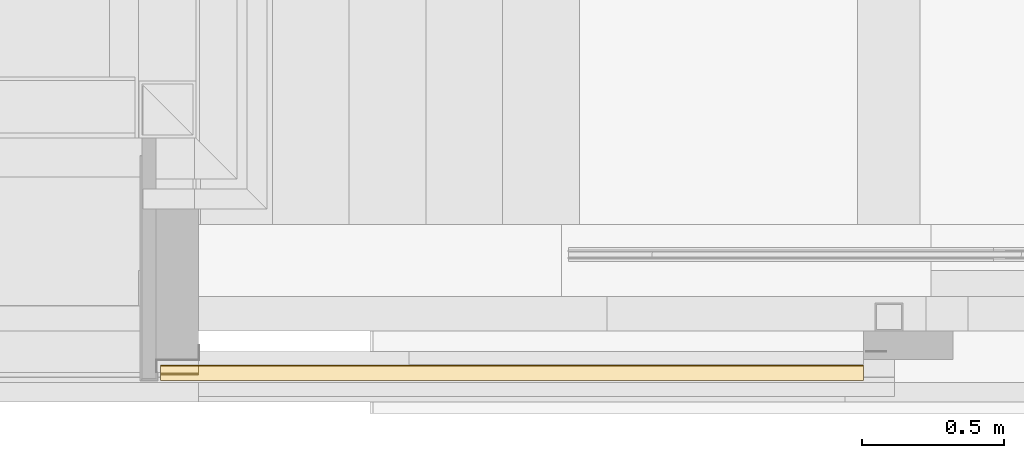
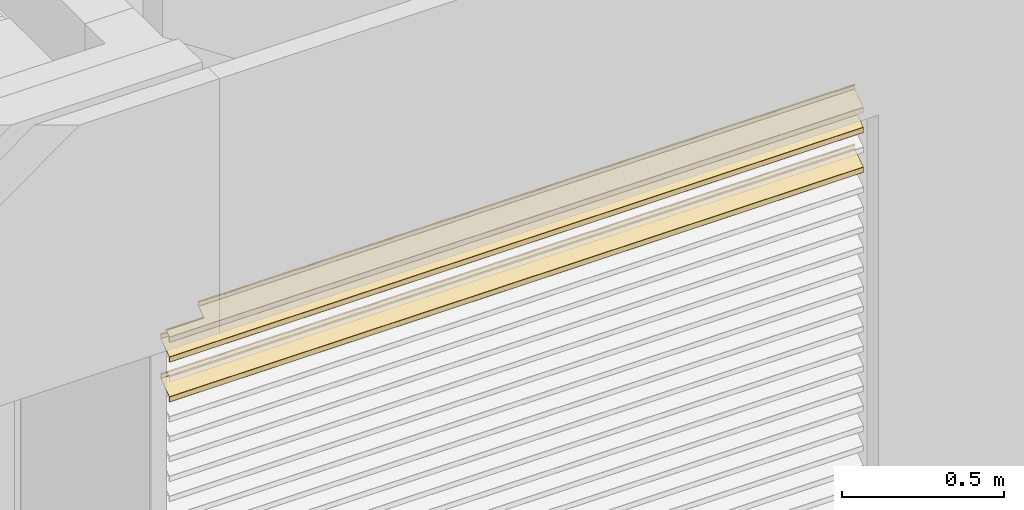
# One storey, part 112 of 165: 3 coverings, 1 element without a shape of its own.
"""IFC2X3 building model written with IfcOpenShell, lengths in millimetres."""

import ifcopenshell
import ifcopenshell.guid

model = None  # the IFC model being written
_history = None  # IfcOwnerHistory: only IFC2X3 demands one
_inside = {}  # id of a spatial element -> (the spatial element, [elements in it])
_under = {}  # id of a project, library or spatial element -> (it, [spatial elements below it])
_declared = {}  # id of a project -> (the project, [libraries it declares])
_typed = {}  # id of a type object -> (the type object, [elements of that type])
_made_of = {}  # id of a material, layer set ... -> (it, [elements and type objects made of it])


def new_model(schema):
    """Start an empty IFC model of exactly this schema.

    Asked for "IFC4X3", IfcOpenShell would pick the latest addendum, in which some entities
    have other attributes; the version numbers below select the first issue.
    IFC2X3 requires an IfcOwnerHistory on every rooted entity: one is made here for all.
    """
    global model, _history
    if schema == "IFC4X3":
        model = ifcopenshell.file(schema_version=(4, 3, 0, 0))
    else:
        model = ifcopenshell.file(schema=schema)
    _inside.clear()
    _under.clear()
    _declared.clear()
    _typed.clear()
    _made_of.clear()
    _history = None
    if model.schema == "IFC2X3":
        org = make("IfcOrganization", Name="unknown")
        user = make(
            "IfcPersonAndOrganization",
            ThePerson=make("IfcPerson", FamilyName="unknown"),
            TheOrganization=org,
        )
        app = make(
            "IfcApplication",
            ApplicationDeveloper=org,
            Version="unknown",
            ApplicationFullName="unknown",
            ApplicationIdentifier="unknown",
        )
        _history = make(
            "IfcOwnerHistory",
            OwningUser=user,
            OwningApplication=app,
            ChangeAction="ADDED",
            CreationDate=0,
        )
    return model


def make(cls, **values):
    """One entity of the class cls with the attributes given. An attribute that is None is left unset."""
    return model.create_entity(
        cls, **{name: value for name, value in values.items() if value is not None}
    )


def entity(cls, *values):
    """Any entity or typed value of the class cls, its attributes in the order of the schema. None: left unset."""
    e = model.create_entity(cls)
    for i, value in enumerate(values):
        if value is not None:
            e[i] = value
    return e


def rooted(cls, **values):
    """An entity with a GlobalId (a new one), such as an element, a storey or a relation."""
    return make(cls, GlobalId=ifcopenshell.guid.new(), OwnerHistory=_history, **values)


def si_unit(unit_type, name, prefix=None):
    """IfcSIUnit, for example si_unit("LENGTHUNIT", "METRE", prefix="MILLI")."""
    return make("IfcSIUnit", UnitType=unit_type, Prefix=prefix, Name=name)


def converted_unit(unit_type, name, factor, base, dimensions=None, offset=None):
    """IfcConversionBasedUnit, such as the inch: factor (a typed value) times the base unit."""
    return make(
        "IfcConversionBasedUnit"
        if offset is None
        else "IfcConversionBasedUnitWithOffset",
        ConversionOffset=offset,
        Dimensions=None
        if dimensions is None
        else entity("IfcDimensionalExponents", *dimensions),
        UnitType=unit_type,
        Name=name,
        ConversionFactor=make(
            "IfcMeasureWithUnit", ValueComponent=factor, UnitComponent=base
        ),
    )


def derived_unit(unit_type, elements):
    """IfcDerivedUnit: a product of units, each with its exponent."""
    return make(
        "IfcDerivedUnit",
        Elements=[
            make("IfcDerivedUnitElement", Unit=unit, Exponent=power)
            for unit, power in elements
        ],
        UnitType=unit_type,
    )


def money_unit(currency):
    """IfcMonetaryUnit."""
    return make("IfcMonetaryUnit", Currency=currency)


def assignment(units):
    """IfcUnitAssignment: the units of a project."""
    return None if units is None else make("IfcUnitAssignment", Units=units)


def point(xyz):
    """IfcCartesianPoint."""
    return None if xyz is None else make("IfcCartesianPoint", Coordinates=xyz)


def direction(xyz):
    """IfcDirection."""
    return None if xyz is None else make("IfcDirection", DirectionRatios=xyz)


def frame(location, z_axis=None, x_axis=None):
    """IfcAxis2Placement3D, a coordinate frame: its origin and axes. An axis left out is left unset."""
    return make(
        "IfcAxis2Placement3D",
        Location=point(location),
        Axis=direction(z_axis),
        RefDirection=direction(x_axis),
    )


def origin_with_axes():
    """The frame at (0, 0, 0) with the z axis (0, 0, 1) and the x axis (1, 0, 0) written out."""
    return frame((0.0, 0.0, 0.0), z_axis=(0.0, 0.0, 1.0), x_axis=(1.0, 0.0, 0.0))


def place(relative_to, where):
    """IfcLocalPlacement: puts the frame where relative to a parent placement (None: the world)."""
    return make(
        "IfcLocalPlacement", PlacementRelTo=relative_to, RelativePlacement=where
    )


def context(
    kind, dimensions, precision=None, world=None, true_north=None, identifier=None
):
    """IfcGeometricRepresentationContext, for example the 3D "Model" context."""
    return make(
        "IfcGeometricRepresentationContext",
        ContextIdentifier=identifier,
        ContextType=kind,
        CoordinateSpaceDimension=dimensions,
        Precision=precision,
        WorldCoordinateSystem=world,
        TrueNorth=true_north,
    )


def subcontext(parent, identifier, kind, view, scale=None):
    """IfcGeometricRepresentationSubContext, for example "Body" below "Model"."""
    return make(
        "IfcGeometricRepresentationSubContext",
        ContextIdentifier=identifier,
        ContextType=kind,
        ParentContext=parent,
        TargetScale=scale,
        TargetView=view,
    )


def project(units=None, contexts=None):
    """IfcProject with its units and contexts."""
    return rooted(
        "IfcProject",
        Name="project",
        RepresentationContexts=contexts,
        UnitsInContext=assignment(units),
    )


def spatial(cls, under=None, at=None, **own):
    """A site, building, storey or space (cls), placed at a placement, below another one or the project."""
    s = rooted(cls, ObjectPlacement=at, **own)
    if under is not None:
        _under.setdefault(under.id(), (under, []))[1].append(s)
    return s


def faces_of(points, faces, orient=None, outer=None):
    """IfcFace entities. A face is a list of loops; a loop is a list of indices into points, from 0.

    orient and outer hold one flag for each loop. By default every Orientation is true, the
    first loop of a face is its IfcFaceOuterBound and the others are IfcFaceBound.
    """
    made = []
    for i, loops in enumerate(faces):
        bounds = []
        for j, loop in enumerate(loops):
            is_outer = j == 0 if outer is None else outer[i][j]
            bounds.append(
                make(
                    "IfcFaceOuterBound" if is_outer else "IfcFaceBound",
                    Bound=make("IfcPolyLoop", Polygon=[points[k] for k in loop]),
                    Orientation=True if orient is None else orient[i][j],
                )
            )
        made.append(make("IfcFace", Bounds=bounds))
    return made


def faceted_brep(points, faces, orient=None, outer=None, voids=None):
    """IfcFacetedBrep: a solid bounded by flat faces; with voids (closed shells), ...WithVoids."""
    shared = [point(p) for p in points]
    hull = make("IfcClosedShell", CfsFaces=faces_of(shared, faces, orient, outer))
    if voids is None:
        return make("IfcFacetedBrep", Outer=hull)
    return make(
        "IfcFacetedBrepWithVoids",
        Outer=hull,
        Voids=[
            make(cls, CfsFaces=faces_of(shared, fs, o, b)) for cls, fs, o, b in voids
        ],
    )


def shape(context_of_items, identifier, shape_type, items):
    """IfcShapeRepresentation: the items that make up one representation, for example the "Body"."""
    return make(
        "IfcShapeRepresentation",
        ContextOfItems=context_of_items,
        RepresentationIdentifier=identifier,
        RepresentationType=shape_type,
        Items=items,
    )


def material(Name=None, Category=None):
    """IfcMaterial."""
    return make("IfcMaterial", Name=Name, Category=Category)


def made_of(thing, what):
    """Note that an element or type object is made of a material, layer set ...; save() writes the relation."""
    if what is not None:
        _made_of.setdefault(what.id(), (what, []))[1].append(thing)
    return thing


def type_object(cls, material=None, **own):
    """A type object (cls), such as IfcWallType, which elements share."""
    return made_of(rooted(cls, **own), material)


def element(
    cls,
    number,
    at=None,
    inside=None,
    cuts=None,
    type_object=None,
    material=None,
    context=None,
    identifier="Body",
    shape_type=None,
    held_by="IfcProductDefinitionShape",
    body=None,
    shapes=None,
    **own,
):
    """One element of the class cls, such as IfcWall. Its Tag is "e" and its number.

    at: its placement. inside: the storey or other place that contains it. cuts: it is an
    opening in that element (IfcRelVoidsElement). A single representation is given by context,
    identifier, shape_type and body (its items); several are given by shapes. held_by: the class
    of the entity that holds the representations. save() writes the other relations.
    """
    e = rooted(cls, Tag="e%d" % number, ObjectPlacement=at, **own)
    if body is not None:
        shapes = [shape(context, identifier, shape_type, body)]
    if shapes is not None:
        e.Representation = make(held_by, Representations=shapes)
    if inside is not None:
        _inside.setdefault(inside.id(), (inside, []))[1].append(e)
    if cuts is not None:
        rooted(
            "IfcRelVoidsElement", RelatingBuildingElement=cuts, RelatedOpeningElement=e
        )
    if type_object is not None:
        _typed.setdefault(type_object.id(), (type_object, []))[1].append(e)
    return made_of(e, material)


def aggregate(whole, parts):
    """IfcRelAggregates: a whole, such as a stair, and the parts it consists of."""
    return rooted("IfcRelAggregates", RelatingObject=whole, RelatedObjects=parts)


def save(model, path):
    """Write the relations noted so far, then the file.

    IfcRelAggregates (storeys below a building ...), IfcRelContainedInSpatialStructure (elements
    in a storey), IfcRelDefinesByType, IfcRelAssociatesMaterial and IfcRelDeclares: one each for
    every whole, place, type object, material and project.
    """
    for whole, parts in _under.values():
        aggregate(whole, parts)
    for where, things in _inside.values():
        rooted(
            "IfcRelContainedInSpatialStructure",
            RelatedElements=things,
            RelatingStructure=where,
        )
    for kind, things in _typed.values():
        rooted("IfcRelDefinesByType", RelatedObjects=things, RelatingType=kind)
    for what, things in _made_of.values():
        rooted("IfcRelAssociatesMaterial", RelatedObjects=things, RelatingMaterial=what)
    for by, libraries in _declared.values():
        rooted("IfcRelDeclares", RelatingContext=by, RelatedDefinitions=libraries)
    model.write(path)


model = new_model("IFC2X3")

# Units and contexts
model_context = context("Model", 3, precision=0.01, world=origin_with_axes(), true_north=direction((0.0, 1.0)))
body_context = subcontext(model_context, "Body", "Model", "MODEL_VIEW")
ifc_project = project(units=[si_unit("LENGTHUNIT", "METRE", prefix="MILLI"), si_unit("AREAUNIT", "SQUARE_METRE"), si_unit("VOLUMEUNIT", "CUBIC_METRE"), converted_unit("PLANEANGLEUNIT", "DEGREE", entity("IfcPlaneAngleMeasure", 0.0174532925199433), si_unit("PLANEANGLEUNIT", "RADIAN"), dimensions=[0, 0, 0, 0, 0, 0, 0]), money_unit("EUR"), converted_unit("TIMEUNIT", "Year", entity("IfcTimeMeasure", 31556926.0), si_unit("TIMEUNIT", "SECOND"), dimensions=[0, 0, 1, 0, 0, 0, 0]), si_unit("MASSUNIT", "GRAM", prefix="KILO"), si_unit("THERMODYNAMICTEMPERATUREUNIT", "DEGREE_CELSIUS"), si_unit("LUMINOUSINTENSITYUNIT", "LUMEN"), si_unit("ENERGYUNIT", "JOULE", prefix="MEGA"), derived_unit("THERMALCONDUCTANCEUNIT", [(si_unit("POWERUNIT", "WATT"), 1), (si_unit("LENGTHUNIT", "METRE"), -1), (si_unit("THERMODYNAMICTEMPERATUREUNIT", "KELVIN"), -1)]), derived_unit("SPECIFICHEATCAPACITYUNIT", [(si_unit("ENERGYUNIT", "JOULE"), 1), (si_unit("MASSUNIT", "GRAM", prefix="KILO"), -1), (si_unit("THERMODYNAMICTEMPERATUREUNIT", "KELVIN"), -1)]), derived_unit("MASSDENSITYUNIT", [(si_unit("MASSUNIT", "GRAM", prefix="KILO"), 1), (si_unit("VOLUMEUNIT", "CUBIC_METRE"), -1)])], contexts=[model_context])

# Site, building, storey
site_placement = place(None, origin_with_axes())
site = spatial("IfcSite", under=ifc_project, at=site_placement, Name="Site", CompositionType="ELEMENT")
building_placement = place(site_placement, origin_with_axes())
building = spatial("IfcBuilding", under=site, at=building_placement, Name="Naam gebouw", CompositionType="ELEMENT")
storey_placement = place(building_placement, origin_with_axes())
storey = spatial("IfcBuildingStorey", under=building, at=storey_placement, Name="Begane grond", CompositionType="ELEMENT", Elevation=0.0)

# Beam, coverings
beam_type = type_object("IfcBeamType", Name="30 Duco Louvre deur 55 x 2627", PredefinedType="BEAM")
beam_placement = place(storey_placement, frame((13900.0, -116.9904125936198, 0.0), z_axis=(0.0, 0.0, 1.0), x_axis=(0.0, 1.0, 0.0)))
beam = element("IfcBeam", 1, at=beam_placement, inside=storey, type_object=beam_type, Name="_Regenwaterafvoer-x", ObjectType="BEAM")
ifc_material = material(Name="Metaal - Aluminium")
covering_1_placement = place(beam_placement, origin_with_axes())
covering_1 = element("IfcCovering", 2, at=covering_1_placement, material=ifc_material, Name="Metaal - Aluminium", PredefinedType="NOTDEFINED", context=body_context, shape_type="Brep", body=[
    faceted_brep([(-4.027927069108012, 2473.999999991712, 2408.699501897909), (-56.57357643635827, 2473.999999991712, 2371.906642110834), (-56.57357643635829, 0.0, 2371.906642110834), (-4.027927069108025, 0.0, 2408.699501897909), (-3.90000000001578, 2473.999999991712, 2408.945247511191), (-3.90000000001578, 2473.999999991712, 2424.126428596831), (-3.975892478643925, 2473.999999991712, 2424.325867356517), (-4.165172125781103, 2473.999999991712, 2424.424400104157), (-4.372072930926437, 2473.999999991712, 2424.37217421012), (-5.427927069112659, 2473.999999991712, 2423.632857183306), (-5.634827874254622, 2473.999999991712, 2423.580631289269), (-5.8241075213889, 2473.999999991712, 2423.679164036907), (-5.900000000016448, 2473.999999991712, 2423.878602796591), (-5.900000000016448, 2473.999999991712, 2425.465609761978), (-5.772072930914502, 2473.999999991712, 2425.711355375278), (-2.944145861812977, 2473.999999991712, 2427.691491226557), (-2.53034425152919, 2473.999999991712, 2427.795943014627), (-2.151784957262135, 2473.999999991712, 2427.59887751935), (-2.000000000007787, 2473.999999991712, 2427.199999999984), (-2.000000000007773, 2473.999999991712, 2408.320567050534), (-2.426423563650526, 2473.999999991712, 2407.501415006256), (-26.08018232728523, 2473.999999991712, 2390.938874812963), (-26.40000000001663, 2473.999999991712, 2390.324510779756), (-26.40000000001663, 2473.999999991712, 2387.12781745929), (-26.61966991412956, 2473.999999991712, 2386.597487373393), (-28.05857864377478, 2473.999999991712, 2385.158578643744), (-28.20000000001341, 2473.999999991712, 2385.09999999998), (-28.3414213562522, 2473.999999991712, 2385.158578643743), (-28.40000000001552, 2473.999999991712, 2385.299999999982), (-28.40000000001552, 2473.999999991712, 2387.873784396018), (-28.58973119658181, 2473.999999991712, 2388.372381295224), (-29.06293031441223, 2473.999999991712, 2388.61871316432), (-29.58018232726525, 2473.999999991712, 2388.488148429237), (-30.60000000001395, 2473.999999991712, 2387.774064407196), (-30.60000000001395, 2473.999999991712, 2382.599999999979), (-30.74644660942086, 2473.999999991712, 2382.246446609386), (-31.10000000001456, 2473.999999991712, 2382.099999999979), (-32.10000000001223, 2473.999999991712, 2382.099999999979), (-32.45355339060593, 2473.999999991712, 2382.246446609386), (-32.60000000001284, 2473.999999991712, 2382.599999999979), (-32.60000000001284, 2473.999999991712, 2384.932912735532), (-32.78973119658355, 2473.999999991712, 2385.431509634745), (-33.26293031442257, 2473.999999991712, 2385.677841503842), (-33.780182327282, 2473.999999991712, 2385.547276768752), (-54.97207293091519, 2473.999999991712, 2370.708555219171), (-55.10000000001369, 2473.999999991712, 2370.462809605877), (-55.10000000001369, 2473.999999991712, 2354.973571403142), (-55.02410752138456, 2473.999999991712, 2354.774132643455), (-54.83482787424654, 2473.999999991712, 2354.675599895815), (-54.62792706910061, 2473.999999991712, 2354.727825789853), (-53.57207293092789, 2473.999999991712, 2355.467142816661), (-53.36517212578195, 2473.999999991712, 2355.519368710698), (-53.1758924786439, 2473.999999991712, 2355.420835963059), (-53.1000000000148, 2473.999999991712, 2355.221397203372), (-53.1000000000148, 2473.999999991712, 2353.634390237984), (-53.22792706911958, 2473.999999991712, 2353.38864462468), (-56.0558541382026, 2473.999999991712, 2351.408508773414), (-56.46965574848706, 2473.999999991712, 2351.304056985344), (-56.8482150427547, 2473.999999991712, 2351.50112248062), (-57.00000000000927, 2473.999999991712, 2351.899999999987), (-57.00000000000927, 2473.999999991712, 2371.087490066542), (-57.00000000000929, 0.0, 2371.087490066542), (-57.00000000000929, 0.0, 2351.899999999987), (-56.84821504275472, 0.0, 2351.50112248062), (-56.46965574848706, 0.0, 2351.304056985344), (-56.05585413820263, 0.0, 2351.408508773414), (-53.22792706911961, 0.0, 2353.38864462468), (-53.10000000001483, 0.0, 2353.634390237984), (-53.10000000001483, 0.0, 2355.221397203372), (-53.17589247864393, 0.0, 2355.420835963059), (-53.36517212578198, 0.0, 2355.519368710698), (-53.57207293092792, 0.0, 2355.467142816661), (-54.62792706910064, 0.0, 2354.727825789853), (-54.83482787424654, 0.0, 2354.675599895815), (-55.02410752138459, 0.0, 2354.774132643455), (-55.10000000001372, 0.0, 2354.973571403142), (-55.10000000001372, 0.0, 2370.462809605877), (-54.97207293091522, 0.0, 2370.708555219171), (-33.78018232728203, 0.0, 2385.547276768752), (-33.2629303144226, 0.0, 2385.677841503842), (-32.78973119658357, 0.0, 2385.431509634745), (-32.60000000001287, 0.0, 2384.932912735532), (-32.60000000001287, 0.0, 2382.599999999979), (-32.45355339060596, 0.0, 2382.246446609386), (-32.10000000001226, 0.0, 2382.099999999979), (-31.10000000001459, 0.0, 2382.099999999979), (-30.74644660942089, 0.0, 2382.246446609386), (-30.60000000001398, 0.0, 2382.599999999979), (-30.60000000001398, 0.0, 2387.774064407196), (-29.58018232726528, 0.0, 2388.488148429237), (-29.06293031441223, 0.0, 2388.61871316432), (-28.58973119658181, 0.0, 2388.372381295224), (-28.40000000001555, 0.0, 2387.873784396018), (-28.40000000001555, 0.0, 2385.299999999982), (-28.34142135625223, 0.0, 2385.158578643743), (-28.20000000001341, 0.0, 2385.09999999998), (-28.05857864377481, 0.0, 2385.158578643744), (-26.61966991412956, 0.0, 2386.597487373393), (-26.40000000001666, 0.0, 2387.12781745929), (-26.40000000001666, 0.0, 2390.324510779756), (-26.08018232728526, 0.0, 2390.938874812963), (-2.42642356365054, 0.0, 2407.501415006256), (-2.000000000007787, 0.0, 2408.320567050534), (-2.000000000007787, 0.0, 2427.199999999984), (-2.151784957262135, 0.0, 2427.59887751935), (-2.53034425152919, 0.0, 2427.795943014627), (-2.944145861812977, 0.0, 2427.691491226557), (-5.772072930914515, 0.0, 2425.711355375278), (-5.900000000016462, 0.0, 2425.465609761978), (-5.900000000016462, 0.0, 2423.878602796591), (-5.8241075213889, 0.0, 2423.679164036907), (-5.634827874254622, 0.0, 2423.580631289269), (-5.427927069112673, 0.0, 2423.632857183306), (-4.372072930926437, 0.0, 2424.37217421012), (-4.165172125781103, 0.0, 2424.424400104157), (-3.975892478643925, 0.0, 2424.325867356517), (-3.900000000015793, 0.0, 2424.126428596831), (-3.900000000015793, 0.0, 2408.945247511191)], [[[0, 1, 2, 3]], [[0, 4, 5, 6, 7, 8, 9, 10, 11, 12, 13, 14, 15, 16, 17, 18, 19, 20, 21, 22, 23, 24, 25, 26, 27, 28, 29, 30, 31, 32, 33, 34, 35, 36, 37, 38, 39, 40, 41, 42, 43, 44, 45, 46, 47, 48, 49, 50, 51, 52, 53, 54, 55, 56, 57, 58, 59, 60, 1]], [[1, 60, 61, 2]], [[3, 2, 61, 62, 63, 64, 65, 66, 67, 68, 69, 70, 71, 72, 73, 74, 75, 76, 77, 78, 79, 80, 81, 82, 83, 84, 85, 86, 87, 88, 89, 90, 91, 92, 93, 94, 95, 96, 97, 98, 99, 100, 101, 102, 103, 104, 105, 106, 107, 108, 109, 110, 111, 112, 113, 114, 115, 116, 117]], [[4, 0, 3, 117]], [[5, 4, 117, 116]], [[6, 5, 116, 115]], [[7, 6, 115, 114]], [[8, 7, 114, 113]], [[9, 8, 113, 112]], [[10, 9, 112, 111]], [[11, 10, 111, 110]], [[12, 11, 110, 109]], [[13, 12, 109, 108]], [[14, 13, 108, 107]], [[15, 14, 107, 106]], [[16, 15, 106, 105]], [[17, 16, 105, 104]], [[18, 17, 104, 103]], [[19, 18, 103, 102]], [[20, 19, 102, 101]], [[21, 20, 101, 100]], [[22, 21, 100, 99]], [[23, 22, 99, 98]], [[24, 23, 98, 97]], [[25, 24, 97, 96]], [[26, 25, 96, 95]], [[27, 26, 95, 94]], [[28, 27, 94, 93]], [[29, 28, 93, 92]], [[30, 29, 92, 91]], [[31, 30, 91, 90]], [[32, 31, 90, 89]], [[33, 32, 89, 88]], [[34, 33, 88, 87]], [[35, 34, 87, 86]], [[36, 35, 86, 85]], [[37, 36, 85, 84]], [[38, 37, 84, 83]], [[39, 38, 83, 82]], [[40, 39, 82, 81]], [[41, 40, 81, 80]], [[42, 41, 80, 79]], [[43, 42, 79, 78]], [[44, 43, 78, 77]], [[45, 44, 77, 76]], [[46, 45, 76, 75]], [[47, 46, 75, 74]], [[48, 47, 74, 73]], [[49, 48, 73, 72]], [[50, 49, 72, 71]], [[51, 50, 71, 70]], [[52, 51, 70, 69]], [[53, 52, 69, 68]], [[54, 53, 68, 67]], [[55, 54, 67, 66]], [[56, 55, 66, 65]], [[57, 56, 65, 64]], [[58, 57, 64, 63]], [[59, 58, 63, 62]], [[60, 59, 62, 61]]]),
])
covering_2_placement = place(beam_placement, origin_with_axes())
covering_2 = element("IfcCovering", 3, at=covering_2_placement, material=ifc_material, Name="Metaal - Aluminium", PredefinedType="NOTDEFINED", context=body_context, shape_type="Brep", body=[
    faceted_brep([(-4.027927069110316, 2473.999999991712, 2558.699501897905), (-56.57357643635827, 2473.999999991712, 2521.906642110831), (-56.57357643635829, 0.0, 2521.906642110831), (-4.027927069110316, 0.0, 2558.699501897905), (-3.90000000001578, 2473.999999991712, 2558.945247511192), (-3.90000000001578, 2473.999999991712, 2574.126428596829), (-3.975892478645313, 2473.999999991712, 2574.325867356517), (-4.165172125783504, 2473.999999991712, 2574.424400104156), (-4.372072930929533, 2473.999999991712, 2574.372174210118), (-5.42792706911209, 2473.999999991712, 2573.632857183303), (-5.634827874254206, 2473.999999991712, 2573.580631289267), (-5.824107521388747, 2473.999999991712, 2573.679164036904), (-5.900000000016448, 2473.999999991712, 2573.878602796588), (-5.900000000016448, 2473.999999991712, 2575.465609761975), (-5.772072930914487, 2473.999999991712, 2575.711355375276), (-2.944145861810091, 2473.999999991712, 2577.691491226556), (-2.530344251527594, 2473.999999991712, 2577.795943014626), (-2.151784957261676, 2473.999999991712, 2577.59887751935), (-2.000000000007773, 2473.999999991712, 2577.199999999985), (-2.000000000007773, 2473.999999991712, 2558.320567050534), (-2.426423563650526, 2473.999999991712, 2557.501415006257), (-26.08018232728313, 2473.999999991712, 2540.938874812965), (-26.40000000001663, 2473.999999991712, 2540.324510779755), (-26.40000000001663, 2473.999999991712, 2537.127817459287), (-26.61966991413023, 2473.999999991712, 2536.597487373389), (-28.05857864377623, 2473.999999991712, 2535.158578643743), (-28.20000000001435, 2473.999999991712, 2535.09999999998), (-28.34142135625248, 2473.999999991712, 2535.158578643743), (-28.40000000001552, 2473.999999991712, 2535.299999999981), (-28.40000000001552, 2473.999999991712, 2537.873784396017), (-28.58973119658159, 2473.999999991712, 2538.372381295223), (-29.06293031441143, 2473.999999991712, 2538.618713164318), (-29.58018232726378, 2473.999999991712, 2538.488148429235), (-30.60000000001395, 2473.999999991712, 2537.774064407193), (-30.60000000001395, 2473.999999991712, 2532.599999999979), (-30.74644660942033, 2473.999999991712, 2532.246446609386), (-31.10000000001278, 2473.999999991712, 2532.09999999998), (-32.10000000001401, 2473.999999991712, 2532.09999999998), (-32.45355339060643, 2473.999999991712, 2532.246446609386), (-32.60000000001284, 2473.999999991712, 2532.599999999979), (-32.60000000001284, 2473.999999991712, 2534.932912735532), (-32.78973119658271, 2473.999999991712, 2535.431509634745), (-33.26293031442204, 2473.999999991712, 2535.677841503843), (-33.780182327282, 2473.999999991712, 2535.547276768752), (-54.97207293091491, 2473.999999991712, 2520.708555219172), (-55.10000000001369, 2473.999999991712, 2520.462809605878), (-55.10000000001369, 2473.999999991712, 2504.973571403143), (-55.02410752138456, 2473.999999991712, 2504.774132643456), (-54.83482787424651, 2473.999999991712, 2504.675599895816), (-54.62792706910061, 2473.999999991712, 2504.727825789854), (-53.57207293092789, 2473.999999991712, 2505.467142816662), (-53.36517212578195, 2473.999999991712, 2505.519368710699), (-53.1758924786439, 2473.999999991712, 2505.42083596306), (-53.1000000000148, 2473.999999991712, 2505.221397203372), (-53.1000000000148, 2473.999999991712, 2503.634390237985), (-53.22792706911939, 2473.999999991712, 2503.388644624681), (-56.05585413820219, 2473.999999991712, 2501.408508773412), (-56.46965574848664, 2473.999999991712, 2501.304056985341), (-56.84821504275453, 2473.999999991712, 2501.501122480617), (-57.00000000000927, 2473.999999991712, 2501.899999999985), (-57.00000000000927, 2473.999999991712, 2521.087490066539), (-57.00000000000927, 0.0, 2521.087490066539), (-57.00000000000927, 0.0, 2501.899999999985), (-56.84821504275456, 0.0, 2501.501122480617), (-56.46965574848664, 0.0, 2501.304056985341), (-56.05585413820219, 0.0, 2501.408508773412), (-53.22792706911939, 0.0, 2503.388644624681), (-53.1000000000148, 0.0, 2503.634390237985), (-53.1000000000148, 0.0, 2505.221397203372), (-53.17589247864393, 0.0, 2505.42083596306), (-53.36517212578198, 0.0, 2505.519368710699), (-53.57207293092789, 0.0, 2505.467142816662), (-54.62792706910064, 0.0, 2504.727825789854), (-54.83482787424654, 0.0, 2504.675599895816), (-55.02410752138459, 0.0, 2504.774132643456), (-55.10000000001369, 0.0, 2504.973571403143), (-55.10000000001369, 0.0, 2520.462809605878), (-54.97207293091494, 0.0, 2520.708555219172), (-33.78018232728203, 0.0, 2535.547276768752), (-33.26293031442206, 0.0, 2535.677841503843), (-32.78973119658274, 0.0, 2535.431509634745), (-32.60000000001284, 0.0, 2534.932912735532), (-32.60000000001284, 0.0, 2532.599999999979), (-32.45355339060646, 0.0, 2532.246446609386), (-32.10000000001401, 0.0, 2532.09999999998), (-31.10000000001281, 0.0, 2532.09999999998), (-30.74644660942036, 0.0, 2532.246446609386), (-30.60000000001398, 0.0, 2532.599999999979), (-30.60000000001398, 0.0, 2537.774064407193), (-29.58018232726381, 0.0, 2538.488148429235), (-29.06293031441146, 0.0, 2538.618713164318), (-28.58973119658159, 0.0, 2538.372381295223), (-28.40000000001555, 0.0, 2537.873784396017), (-28.40000000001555, 0.0, 2535.299999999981), (-28.3414213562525, 0.0, 2535.158578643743), (-28.20000000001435, 0.0, 2535.09999999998), (-28.05857864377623, 0.0, 2535.158578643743), (-26.61966991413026, 0.0, 2536.597487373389), (-26.40000000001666, 0.0, 2537.127817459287), (-26.40000000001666, 0.0, 2540.324510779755), (-26.08018232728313, 0.0, 2540.938874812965), (-2.426423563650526, 0.0, 2557.501415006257), (-2.000000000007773, 0.0, 2558.320567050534), (-2.000000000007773, 0.0, 2577.199999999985), (-2.151784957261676, 0.0, 2577.59887751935), (-2.530344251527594, 0.0, 2577.795943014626), (-2.944145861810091, 0.0, 2577.691491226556), (-5.772072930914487, 0.0, 2575.711355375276), (-5.900000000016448, 0.0, 2575.465609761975), (-5.900000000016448, 0.0, 2573.878602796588), (-5.824107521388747, 0.0, 2573.679164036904), (-5.63482787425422, 0.0, 2573.580631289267), (-5.42792706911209, 0.0, 2573.632857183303), (-4.372072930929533, 0.0, 2574.372174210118), (-4.165172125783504, 0.0, 2574.424400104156), (-3.975892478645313, 0.0, 2574.325867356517), (-3.90000000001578, 0.0, 2574.126428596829), (-3.90000000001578, 0.0, 2558.945247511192)], [[[0, 1, 2, 3]], [[0, 4, 5, 6, 7, 8, 9, 10, 11, 12, 13, 14, 15, 16, 17, 18, 19, 20, 21, 22, 23, 24, 25, 26, 27, 28, 29, 30, 31, 32, 33, 34, 35, 36, 37, 38, 39, 40, 41, 42, 43, 44, 45, 46, 47, 48, 49, 50, 51, 52, 53, 54, 55, 56, 57, 58, 59, 60, 1]], [[1, 60, 61, 2]], [[3, 2, 61, 62, 63, 64, 65, 66, 67, 68, 69, 70, 71, 72, 73, 74, 75, 76, 77, 78, 79, 80, 81, 82, 83, 84, 85, 86, 87, 88, 89, 90, 91, 92, 93, 94, 95, 96, 97, 98, 99, 100, 101, 102, 103, 104, 105, 106, 107, 108, 109, 110, 111, 112, 113, 114, 115, 116, 117]], [[4, 0, 3, 117]], [[5, 4, 117, 116]], [[6, 5, 116, 115]], [[7, 6, 115, 114]], [[8, 7, 114, 113]], [[9, 8, 113, 112]], [[10, 9, 112, 111]], [[11, 10, 111, 110]], [[12, 11, 110, 109]], [[13, 12, 109, 108]], [[14, 13, 108, 107]], [[15, 14, 107, 106]], [[16, 15, 106, 105]], [[17, 16, 105, 104]], [[18, 17, 104, 103]], [[19, 18, 103, 102]], [[20, 19, 102, 101]], [[21, 20, 101, 100]], [[22, 21, 100, 99]], [[23, 22, 99, 98]], [[24, 23, 98, 97]], [[25, 24, 97, 96]], [[26, 25, 96, 95]], [[27, 26, 95, 94]], [[28, 27, 94, 93]], [[29, 28, 93, 92]], [[30, 29, 92, 91]], [[31, 30, 91, 90]], [[32, 31, 90, 89]], [[33, 32, 89, 88]], [[34, 33, 88, 87]], [[35, 34, 87, 86]], [[36, 35, 86, 85]], [[37, 36, 85, 84]], [[38, 37, 84, 83]], [[39, 38, 83, 82]], [[40, 39, 82, 81]], [[41, 40, 81, 80]], [[42, 41, 80, 79]], [[43, 42, 79, 78]], [[44, 43, 78, 77]], [[45, 44, 77, 76]], [[46, 45, 76, 75]], [[47, 46, 75, 74]], [[48, 47, 74, 73]], [[49, 48, 73, 72]], [[50, 49, 72, 71]], [[51, 50, 71, 70]], [[52, 51, 70, 69]], [[53, 52, 69, 68]], [[54, 53, 68, 67]], [[55, 54, 67, 66]], [[56, 55, 66, 65]], [[57, 56, 65, 64]], [[58, 57, 64, 63]], [[59, 58, 63, 62]], [[60, 59, 62, 61]]]),
])
covering_3_placement = place(beam_placement, origin_with_axes())
covering_3 = element("IfcCovering", 4, at=covering_3_placement, material=ifc_material, Name="Metaal - Aluminium", PredefinedType="NOTDEFINED", context=body_context, shape_type="Brep", body=[
    faceted_brep([(-26.61966991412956, 2339.999999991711, 2611.597487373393), (-28.05857864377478, 2339.999999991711, 2610.158578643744), (-28.20000000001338, 2339.999999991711, 2610.09999999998), (-28.3414213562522, 2339.999999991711, 2610.158578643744), (-28.40000000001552, 2339.999999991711, 2610.299999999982), (-28.40000000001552, 2339.999999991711, 2612.873784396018), (-28.58973119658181, 2339.999999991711, 2613.372381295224), (-29.06293031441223, 2339.999999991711, 2613.61871316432), (-29.58018232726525, 2339.999999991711, 2613.488148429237), (-30.60000000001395, 2339.999999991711, 2612.774064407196), (-30.60000000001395, 2339.999999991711, 2610.0), (-32.62552873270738, 2339.999999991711, 2610.0), (-32.78973119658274, 2339.999999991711, 2610.431509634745), (-33.26293031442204, 2339.999999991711, 2610.677841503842), (-33.780182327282, 2339.999999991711, 2610.547276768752), (-34.56177455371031, 2339.999999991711, 2610.0), (-37.87432346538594, 2339.999999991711, 2610.0), (-4.027927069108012, 2339.999999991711, 2633.69950189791), (-3.90000000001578, 2339.999999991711, 2633.945247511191), (-3.900000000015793, 2339.999999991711, 2649.126428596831), (-3.975892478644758, 2339.999999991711, 2649.325867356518), (-4.16517212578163, 2339.999999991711, 2649.424400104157), (-4.372072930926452, 2339.999999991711, 2649.37217421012), (-5.427927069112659, 2339.999999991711, 2648.632857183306), (-5.634827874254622, 2339.999999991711, 2648.580631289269), (-5.824107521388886, 2339.999999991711, 2648.679164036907), (-5.900000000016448, 2339.999999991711, 2648.878602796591), (-5.900000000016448, 2339.999999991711, 2650.465609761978), (-5.772072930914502, 2339.999999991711, 2650.711355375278), (-2.944145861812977, 2339.999999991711, 2652.691491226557), (-2.53034425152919, 2339.999999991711, 2652.795943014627), (-2.151784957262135, 2339.999999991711, 2652.59887751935), (-2.000000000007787, 2339.999999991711, 2652.199999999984), (-2.000000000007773, 2339.999999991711, 2633.320567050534), (-2.426423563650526, 2339.999999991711, 2632.501415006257), (-26.08018232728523, 2339.999999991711, 2615.938874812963), (-26.40000000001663, 2339.999999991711, 2615.324510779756), (-26.40000000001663, 2339.999999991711, 2612.12781745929), (-26.61966991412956, 0.0, 2611.597487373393), (-28.05857864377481, 0.0, 2610.158578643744), (-28.20000000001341, 0.0, 2610.09999999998), (-28.3414213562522, 0.0, 2610.158578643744), (-28.40000000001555, 0.0, 2610.299999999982), (-28.40000000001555, 0.0, 2612.873784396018), (-28.58973119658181, 0.0, 2613.372381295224), (-29.06293031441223, 0.0, 2613.61871316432), (-29.58018232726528, 0.0, 2613.488148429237), (-30.60000000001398, 0.0, 2612.774064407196), (-30.60000000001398, 0.0, 2607.59999999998), (-30.60000000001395, 2473.999999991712, 2607.59999999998), (-30.60000000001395, 2473.999999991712, 2610.0), (-32.62552873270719, 2473.999999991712, 2610.0), (-32.60000000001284, 2473.999999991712, 2609.932912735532), (-32.60000000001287, 0.0, 2609.932912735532), (-32.78973119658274, 0.0, 2610.431509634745), (-33.26293031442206, 0.0, 2610.677841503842), (-33.78018232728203, 0.0, 2610.547276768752), (-54.97207293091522, 0.0, 2595.708555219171), (-54.97207293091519, 2473.999999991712, 2595.708555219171), (-34.56177455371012, 2473.999999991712, 2610.0), (-37.87432346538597, 2473.999999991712, 2610.0), (-56.57357643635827, 2473.999999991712, 2596.906642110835), (-56.57357643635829, 0.0, 2596.906642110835), (-4.027927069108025, 0.0, 2633.69950189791), (-3.900000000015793, 0.0, 2633.945247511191), (-3.900000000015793, 0.0, 2649.126428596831), (-3.975892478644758, 0.0, 2649.325867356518), (-4.16517212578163, 0.0, 2649.424400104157), (-4.372072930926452, 0.0, 2649.37217421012), (-5.427927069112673, 0.0, 2648.632857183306), (-5.634827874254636, 0.0, 2648.580631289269), (-5.824107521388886, 0.0, 2648.679164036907), (-5.900000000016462, 0.0, 2648.878602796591), (-5.900000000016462, 0.0, 2650.465609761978), (-5.772072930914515, 0.0, 2650.711355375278), (-2.944145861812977, 0.0, 2652.691491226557), (-2.53034425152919, 0.0, 2652.795943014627), (-2.151784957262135, 0.0, 2652.59887751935), (-2.000000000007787, 0.0, 2652.199999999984), (-2.000000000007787, 0.0, 2633.320567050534), (-2.42642356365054, 0.0, 2632.501415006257), (-26.08018232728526, 0.0, 2615.938874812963), (-26.40000000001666, 0.0, 2615.324510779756), (-26.40000000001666, 0.0, 2612.12781745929), (-57.00000000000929, 0.0, 2596.087490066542), (-57.00000000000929, 0.0, 2576.899999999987), (-56.84821504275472, 0.0, 2576.50112248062), (-56.46965574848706, 0.0, 2576.304056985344), (-56.05585413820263, 0.0, 2576.408508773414), (-53.22792706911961, 0.0, 2578.38864462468), (-53.10000000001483, 0.0, 2578.634390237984), (-53.10000000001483, 0.0, 2580.221397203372), (-53.17589247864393, 0.0, 2580.420835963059), (-53.36517212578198, 0.0, 2580.519368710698), (-53.57207293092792, 0.0, 2580.467142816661), (-54.62792706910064, 0.0, 2579.727825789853), (-54.83482787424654, 0.0, 2579.675599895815), (-55.02410752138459, 0.0, 2579.774132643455), (-55.10000000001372, 0.0, 2579.973571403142), (-55.10000000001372, 0.0, 2595.462809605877), (-32.60000000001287, 0.0, 2607.59999999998), (-32.45355339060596, 0.0, 2607.246446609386), (-32.10000000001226, 0.0, 2607.099999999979), (-31.10000000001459, 0.0, 2607.099999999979), (-30.74644660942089, 0.0, 2607.246446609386), (-30.74644660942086, 2473.999999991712, 2607.246446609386), (-31.10000000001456, 2473.999999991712, 2607.099999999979), (-32.10000000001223, 2473.999999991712, 2607.099999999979), (-32.45355339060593, 2473.999999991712, 2607.246446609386), (-32.60000000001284, 2473.999999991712, 2607.59999999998), (-55.10000000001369, 2473.999999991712, 2595.462809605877), (-55.10000000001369, 2473.999999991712, 2579.973571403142), (-55.02410752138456, 2473.999999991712, 2579.774132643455), (-54.83482787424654, 2473.999999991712, 2579.675599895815), (-54.62792706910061, 2473.999999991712, 2579.727825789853), (-53.57207293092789, 2473.999999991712, 2580.467142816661), (-53.36517212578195, 2473.999999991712, 2580.519368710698), (-53.1758924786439, 2473.999999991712, 2580.420835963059), (-53.1000000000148, 2473.999999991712, 2580.221397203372), (-53.1000000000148, 2473.999999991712, 2578.634390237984), (-53.22792706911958, 2473.999999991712, 2578.38864462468), (-56.0558541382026, 2473.999999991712, 2576.408508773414), (-56.46965574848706, 2473.999999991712, 2576.304056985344), (-56.8482150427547, 2473.999999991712, 2576.50112248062), (-57.00000000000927, 2473.999999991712, 2576.899999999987), (-57.00000000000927, 2473.999999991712, 2596.087490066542)], [[[0, 1, 2, 3, 4, 5, 6, 7, 8, 9, 10, 11, 12, 13, 14, 15, 16, 17, 18, 19, 20, 21, 22, 23, 24, 25, 26, 27, 28, 29, 30, 31, 32, 33, 34, 35, 36, 37]], [[1, 0, 38, 39]], [[2, 1, 39, 40]], [[3, 2, 40, 41]], [[4, 3, 41, 42]], [[5, 4, 42, 43]], [[6, 5, 43, 44]], [[7, 6, 44, 45]], [[8, 7, 45, 46]], [[9, 8, 46, 47]], [[10, 9, 47, 48, 49, 50]], [[10, 50, 51, 11]], [[11, 51, 52, 53, 54, 12]], [[13, 12, 54, 55]], [[14, 13, 55, 56]], [[15, 14, 56, 57, 58, 59]], [[15, 59, 60, 16]], [[16, 60, 61, 62, 63, 17]], [[18, 17, 63, 64]], [[19, 18, 64, 65]], [[20, 19, 65, 66]], [[21, 20, 66, 67]], [[22, 21, 67, 68]], [[23, 22, 68, 69]], [[24, 23, 69, 70]], [[25, 24, 70, 71]], [[26, 25, 71, 72]], [[27, 26, 72, 73]], [[28, 27, 73, 74]], [[29, 28, 74, 75]], [[30, 29, 75, 76]], [[31, 30, 76, 77]], [[32, 31, 77, 78]], [[33, 32, 78, 79]], [[34, 33, 79, 80]], [[35, 34, 80, 81]], [[36, 35, 81, 82]], [[37, 36, 82, 83]], [[0, 37, 83, 38]], [[64, 63, 62, 84, 85, 86, 87, 88, 89, 90, 91, 92, 93, 94, 95, 96, 97, 98, 99, 57, 56, 55, 54, 53, 100, 101, 102, 103, 104, 48, 47, 46, 45, 44, 43, 42, 41, 40, 39, 38, 83, 82, 81, 80, 79, 78, 77, 76, 75, 74, 73, 72, 71, 70, 69, 68, 67, 66, 65]], [[104, 105, 49, 48]], [[51, 50, 49, 105, 106, 107, 108, 109, 52]], [[53, 52, 109, 100]], [[99, 110, 58, 57]], [[60, 59, 58, 110, 111, 112, 113, 114, 115, 116, 117, 118, 119, 120, 121, 122, 123, 124, 125, 61]], [[62, 61, 125, 84]], [[84, 125, 124, 85]], [[85, 124, 123, 86]], [[86, 123, 122, 87]], [[87, 122, 121, 88]], [[88, 121, 120, 89]], [[89, 120, 119, 90]], [[90, 119, 118, 91]], [[91, 118, 117, 92]], [[92, 117, 116, 93]], [[93, 116, 115, 94]], [[94, 115, 114, 95]], [[95, 114, 113, 96]], [[96, 113, 112, 97]], [[97, 112, 111, 98]], [[98, 111, 110, 99]], [[100, 109, 108, 101]], [[101, 108, 107, 102]], [[102, 107, 106, 103]], [[103, 106, 105, 104]]]),
])
aggregate(beam, [covering_1, covering_2, covering_3])

save(model, "model.ifc")
